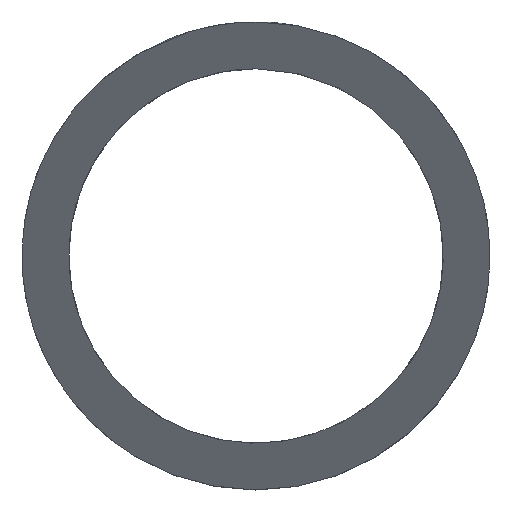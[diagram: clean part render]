
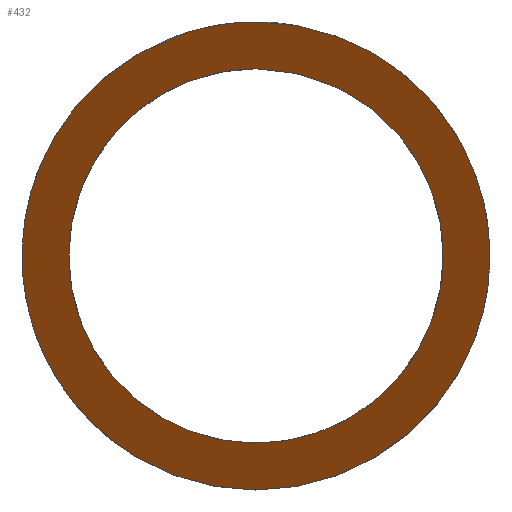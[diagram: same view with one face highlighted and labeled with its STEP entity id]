
A CAD part, left-side view. The second image highlights one B-rep face of the part: STEP entity #432.
In plain terms, the highlighted planar face has unit normal (-0.707, 0.707, 0).
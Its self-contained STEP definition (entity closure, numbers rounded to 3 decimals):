
#156=ORIENTED_EDGE('',*,*,#194,.T.);
#157=ORIENTED_EDGE('',*,*,#195,.T.);
#180=ELLIPSE('',#419,21.213,15.);
#181=ELLIPSE('',#420,16.971,12.);
#182=VERTEX_POINT('',#263);
#183=VERTEX_POINT('',#265);
#194=EDGE_CURVE('',#182,#182,#180,.T.);
#195=EDGE_CURVE('',#183,#183,#181,.T.);
#206=EDGE_LOOP('',(#156));
#207=EDGE_LOOP('',(#157));
#222=FACE_BOUND('',#206,.T.);
#223=FACE_BOUND('',#207,.T.);
#238=DIRECTION('',(-0.707,0.707,0.));
#239=DIRECTION('',(0.707,0.707,0.));
#240=DIRECTION('',(-0.707,0.707,0.));
#241=DIRECTION('',(0.707,0.707,0.));
#242=DIRECTION('',(0.707,-0.707,0.));
#243=DIRECTION('',(-0.707,-0.707,0.));
#262=CARTESIAN_POINT('',(880.394,4.393,15.));
#263=CARTESIAN_POINT('',(880.394,4.393,14.342));
#264=CARTESIAN_POINT('',(876.,0.,0.));
#265=CARTESIAN_POINT('',(880.394,4.393,11.167));
#266=CARTESIAN_POINT('',(876.,0.,0.));
#418=AXIS2_PLACEMENT_3D('',#262,#238,#239);
#419=AXIS2_PLACEMENT_3D('',#264,#240,#241);
#420=AXIS2_PLACEMENT_3D('',#266,#242,#243);
#430=PLANE('',#418);
#432=ADVANCED_FACE('',(#222,#223),#430,.T.);
